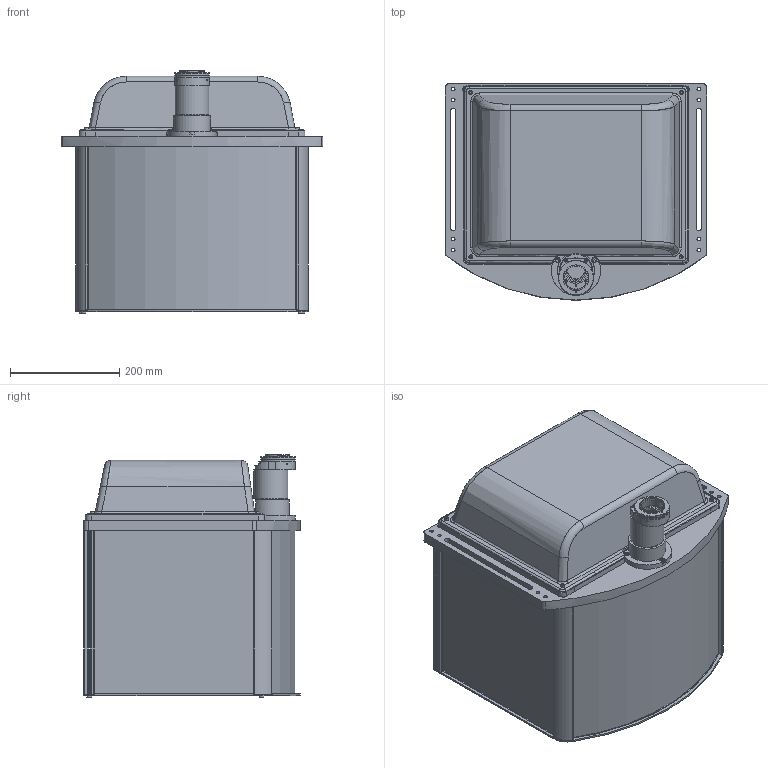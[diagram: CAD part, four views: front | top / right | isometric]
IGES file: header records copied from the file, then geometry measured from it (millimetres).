
Start section: SolidWorks IGES file using analytic representation for surfaces
Global section: file name: \\172.16.20.198\dati\R&D\01 archivio\DPXXXXX-X\DP28566-C_TCCP5MHR260-F.igs; native system: SolidWorks 2021; preprocessor: SolidWorks 2021; author: lrizzotto; date: 220623.102505; units: millimetre
Bounding box: 480 x 396.7 x 445.21 mm (x, y, z)
Surface area: 1208603.7 mm2 (no closed solid volume)
Topology: 0 solids, 0 shells, 425 faces, 2401 edges, 2337 vertices
Faces by surface type: bspline 242, revolution 183
